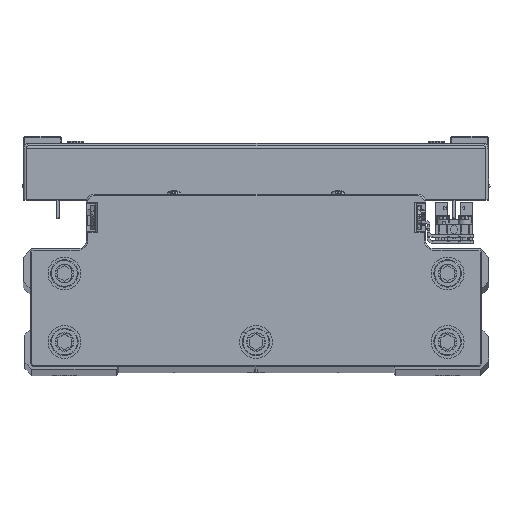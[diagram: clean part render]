
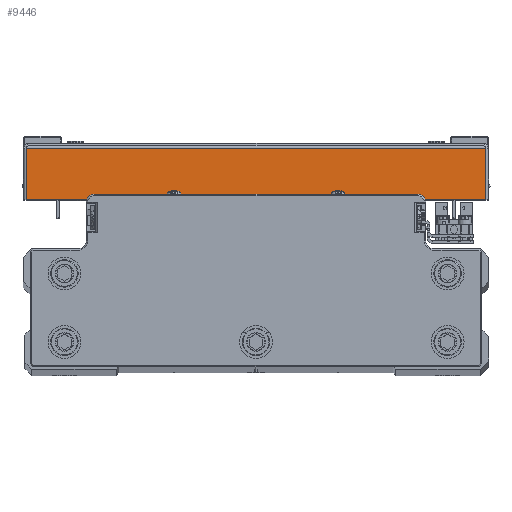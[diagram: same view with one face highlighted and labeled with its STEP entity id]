
A CAD part, top view. The second image highlights one B-rep face of the part: STEP entity #9446.
In plain terms, the highlighted planar face has unit normal (0, 0, 1) as drawn and (1, 0, 0) by its records, which use the part's own axes.
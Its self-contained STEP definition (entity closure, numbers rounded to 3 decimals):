
#1544 = ORIENTED_EDGE ( 'NONE', *, *, #42736, .T. ) ;
#2938 = DIRECTION ( 'NONE',  ( 0., -1., 0. ) ) ;
#6009 = VECTOR ( 'NONE', #34453, 1000. ) ;
#6185 = LINE ( 'NONE', #20321, #6009 ) ;
#6448 = PLANE ( 'NONE',  #6511 ) ;
#6511 = AXIS2_PLACEMENT_3D ( 'NONE', #20571, #34700, #2938 ) ;
#6790 = CARTESIAN_POINT ( 'NONE',  ( 110., 0., -83.929 ) ) ;
#8215 = CARTESIAN_POINT ( 'NONE',  ( 110., 19.5, 83.929 ) ) ;
#8611 = CARTESIAN_POINT ( 'NONE',  ( 110., 1., 85. ) ) ;
#8986 = DIRECTION ( 'NONE',  ( 0., 1., 0. ) ) ;
#9340 = ORIENTED_EDGE ( 'NONE', *, *, #15526, .T. ) ;
#9446 = ADVANCED_FACE ( 'NONE', ( #38210 ), #6448, .F. ) ;
#13364 = CARTESIAN_POINT ( 'NONE',  ( 110., 1., -83.929 ) ) ;
#15526 = EDGE_CURVE ( 'NONE', #33492, #43730, #6185, .T. ) ;
#17204 = CARTESIAN_POINT ( 'NONE',  ( 110., 19.5, -83.929 ) ) ;
#17631 = CARTESIAN_POINT ( 'NONE',  ( 110., 1., 83.929 ) ) ;
#18767 = VECTOR ( 'NONE', #22722, 1000. ) ;
#20321 = CARTESIAN_POINT ( 'NONE',  ( 110., 19.5, 0. ) ) ;
#20571 = CARTESIAN_POINT ( 'NONE',  ( 110., 0., 0. ) ) ;
#20926 = DIRECTION ( 'NONE',  ( 0., 1., 0. ) ) ;
#22722 = DIRECTION ( 'NONE',  ( 0., 0., 1. ) ) ;
#23326 = EDGE_LOOP ( 'NONE', ( #44888, #1544, #9340, #34889 ) ) ;
#23809 = VECTOR ( 'NONE', #8986, 1000. ) ;
#26584 = LINE ( 'NONE', #40726, #23809 ) ;
#26594 = VERTEX_POINT ( 'NONE', #17631 ) ;
#33492 = VERTEX_POINT ( 'NONE', #17204 ) ;
#34453 = DIRECTION ( 'NONE',  ( 0., 0., 1. ) ) ;
#34700 = DIRECTION ( 'NONE',  ( -1., 0., 0. ) ) ;
#34889 = ORIENTED_EDGE ( 'NONE', *, *, #45199, .F. ) ;
#38210 = FACE_OUTER_BOUND ( 'NONE', #23326, .T. ) ;
#38538 = LINE ( 'NONE', #6790, #45247 ) ;
#39832 = EDGE_CURVE ( 'NONE', #40496, #26594, #40353, .T. ) ;
#40353 = LINE ( 'NONE', #8611, #18767 ) ;
#40496 = VERTEX_POINT ( 'NONE', #13364 ) ;
#40726 = CARTESIAN_POINT ( 'NONE',  ( 110., 0., 83.929 ) ) ;
#42736 = EDGE_CURVE ( 'NONE', #40496, #33492, #38538, .T. ) ;
#43730 = VERTEX_POINT ( 'NONE', #8215 ) ;
#44888 = ORIENTED_EDGE ( 'NONE', *, *, #39832, .F. ) ;
#45199 = EDGE_CURVE ( 'NONE', #26594, #43730, #26584, .T. ) ;
#45247 = VECTOR ( 'NONE', #20926, 1000. ) ;
